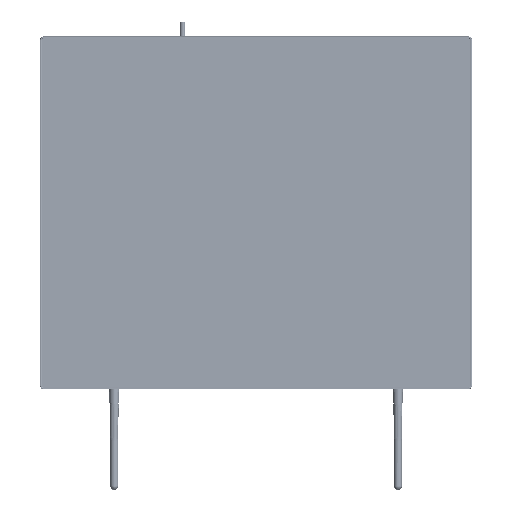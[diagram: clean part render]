
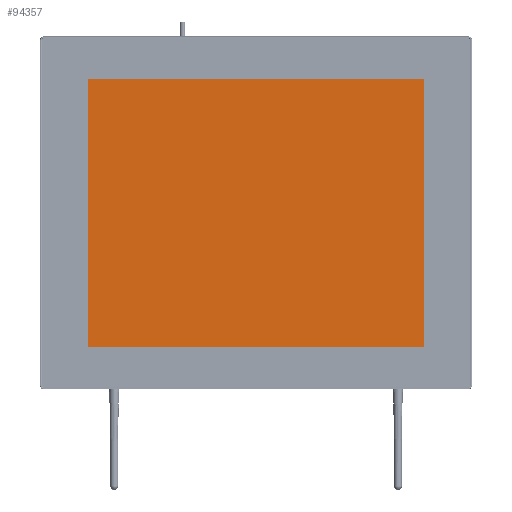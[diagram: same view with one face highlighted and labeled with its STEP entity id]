
A CAD part, front view. The second image highlights one B-rep face of the part: STEP entity #94357.
In plain terms, the highlighted planar face has unit normal (0, -1, 0) as drawn and (0, 0, 1) by its records, which use the part's own axes.
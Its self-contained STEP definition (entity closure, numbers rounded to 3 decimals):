
#6731 = PLANE ( 'NONE',  #258949 ) ;
#12621 = CARTESIAN_POINT ( 'NONE',  ( -169.66, -135.872, 1.8 ) ) ;
#31162 = DIRECTION ( 'NONE',  ( 1., 0., 0. ) ) ;
#32382 = EDGE_CURVE ( 'NONE', #61214, #155552, #159804, .T. ) ;
#34753 = VECTOR ( 'NONE', #286499, 1000. ) ;
#35859 = VECTOR ( 'NONE', #31162, 1000. ) ;
#51831 = DIRECTION ( 'NONE',  ( 0., -1., 0. ) ) ;
#53541 = VECTOR ( 'NONE', #51831, 1000. ) ;
#56896 = DIRECTION ( 'NONE',  ( 0., 0., 1. ) ) ;
#57637 = CARTESIAN_POINT ( 'NONE',  ( 169.66, 135.872, 1.8 ) ) ;
#58460 = EDGE_CURVE ( 'NONE', #155552, #260044, #117951, .T. ) ;
#61214 = VERTEX_POINT ( 'NONE', #12621 ) ;
#78454 = ORIENTED_EDGE ( 'NONE', *, *, #32382, .F. ) ;
#94357 = ADVANCED_FACE ( 'NONE', ( #94497 ), #6731, .T. ) ;
#94497 = FACE_OUTER_BOUND ( 'NONE', #247962, .T. ) ;
#102390 = LINE ( 'NONE', #151051, #53541 ) ;
#117951 = LINE ( 'NONE', #232904, #35859 ) ;
#121168 = ORIENTED_EDGE ( 'NONE', *, *, #133487, .F. ) ;
#131926 = CARTESIAN_POINT ( 'NONE',  ( -169.66, 135.872, 1.8 ) ) ;
#133487 = EDGE_CURVE ( 'NONE', #187753, #61214, #147746, .T. ) ;
#147746 = LINE ( 'NONE', #165363, #34753 ) ;
#151051 = CARTESIAN_POINT ( 'NONE',  ( 169.66, 0., 1.8 ) ) ;
#155552 = VERTEX_POINT ( 'NONE', #131926 ) ;
#159804 = LINE ( 'NONE', #291283, #198882 ) ;
#165363 = CARTESIAN_POINT ( 'NONE',  ( 0., -135.872, 1.8 ) ) ;
#187753 = VERTEX_POINT ( 'NONE', #197520 ) ;
#188889 = ORIENTED_EDGE ( 'NONE', *, *, #276394, .F. ) ;
#197520 = CARTESIAN_POINT ( 'NONE',  ( 169.66, -135.871, 1.8 ) ) ;
#198882 = VECTOR ( 'NONE', #293467, 1000. ) ;
#206196 = CARTESIAN_POINT ( 'NONE',  ( 0., 0., 1.8 ) ) ;
#232904 = CARTESIAN_POINT ( 'NONE',  ( 0., 135.872, 1.8 ) ) ;
#242097 = ORIENTED_EDGE ( 'NONE', *, *, #58460, .F. ) ;
#247962 = EDGE_LOOP ( 'NONE', ( #78454, #121168, #188889, #242097 ) ) ;
#256487 = DIRECTION ( 'NONE',  ( 1., 0., 0. ) ) ;
#258949 = AXIS2_PLACEMENT_3D ( 'NONE', #206196, #56896, #256487 ) ;
#260044 = VERTEX_POINT ( 'NONE', #57637 ) ;
#276394 = EDGE_CURVE ( 'NONE', #260044, #187753, #102390, .T. ) ;
#286499 = DIRECTION ( 'NONE',  ( -1., 0., 0. ) ) ;
#291283 = CARTESIAN_POINT ( 'NONE',  ( -169.66, 0., 1.8 ) ) ;
#293467 = DIRECTION ( 'NONE',  ( 0., 1., 0. ) ) ;
